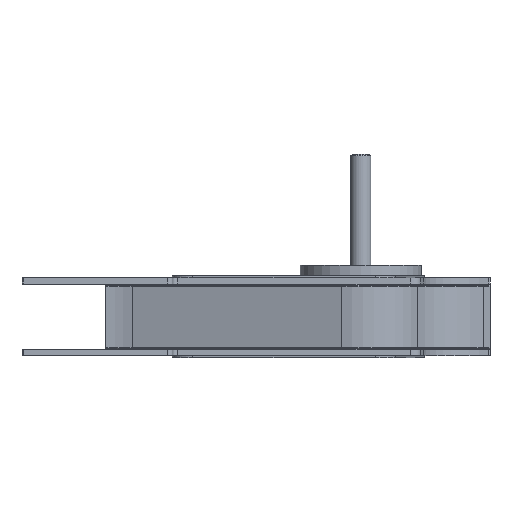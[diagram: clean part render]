
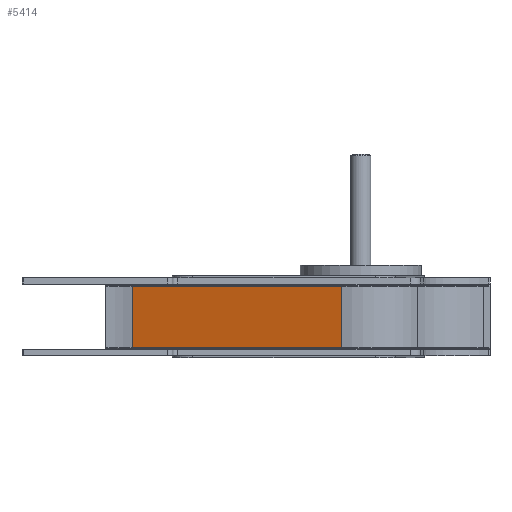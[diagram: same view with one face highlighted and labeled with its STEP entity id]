
A CAD part, front view. The second image highlights one B-rep face of the part: STEP entity #5414.
In plain terms, the highlighted planar face has unit normal (-0.291, -0.957, 0).
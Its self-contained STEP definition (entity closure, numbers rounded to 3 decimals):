
#1 = CARTESIAN_POINT ( 'NONE',  ( -146.644, -103.189, 30.293 ) ) ;
#1324 = DIRECTION ( 'NONE',  ( -0.957, 0.291, 0. ) ) ;
#1430 = CARTESIAN_POINT ( 'NONE',  ( -146.644, -103.189, -30.293 ) ) ;
#1483 = DIRECTION ( 'NONE',  ( 0., 0., -1. ) ) ;
#1758 = CARTESIAN_POINT ( 'NONE',  ( -146.644, -103.189, 30.293 ) ) ;
#1898 = PLANE ( 'NONE',  #10991 ) ;
#2354 = ORIENTED_EDGE ( 'NONE', *, *, #9049, .T. ) ;
#2447 = DIRECTION ( 'NONE',  ( -0.957, 0.291, 0. ) ) ;
#2572 = VERTEX_POINT ( 'NONE', #6202 ) ;
#2800 = VECTOR ( 'NONE', #1324, 1000. ) ;
#3042 = EDGE_CURVE ( 'NONE', #10491, #2572, #16060, .T. ) ;
#3230 = EDGE_CURVE ( 'NONE', #13742, #10491, #16883, .T. ) ;
#4186 = CARTESIAN_POINT ( 'NONE',  ( -353.933, -40.08, 30.293 ) ) ;
#5414 = ADVANCED_FACE ( 'NONE', ( #13714 ), #1898, .F. ) ;
#5835 = ORIENTED_EDGE ( 'NONE', *, *, #8268, .T. ) ;
#6202 = CARTESIAN_POINT ( 'NONE',  ( -353.933, -40.08, -30.293 ) ) ;
#6382 = CARTESIAN_POINT ( 'NONE',  ( -353.933, -40.08, 30.293 ) ) ;
#7291 = DIRECTION ( 'NONE',  ( -0.957, 0.291, 0. ) ) ;
#8268 = EDGE_CURVE ( 'NONE', #13742, #13550, #12908, .T. ) ;
#8521 = CARTESIAN_POINT ( 'NONE',  ( -146.644, -103.189, 30.293 ) ) ;
#9049 = EDGE_CURVE ( 'NONE', #13550, #2572, #15347, .T. ) ;
#9518 = ORIENTED_EDGE ( 'NONE', *, *, #3042, .F. ) ;
#10491 = VERTEX_POINT ( 'NONE', #1430 ) ;
#10991 = AXIS2_PLACEMENT_3D ( 'NONE', #8521, #11260, #7291 ) ;
#11118 = VECTOR ( 'NONE', #11933, 1000. ) ;
#11243 = EDGE_LOOP ( 'NONE', ( #12411, #5835, #2354, #9518 ) ) ;
#11260 = DIRECTION ( 'NONE',  ( 0.291, 0.957, 0. ) ) ;
#11844 = CARTESIAN_POINT ( 'NONE',  ( -146.644, -103.189, 30.293 ) ) ;
#11933 = DIRECTION ( 'NONE',  ( 0., 0., -1. ) ) ;
#12411 = ORIENTED_EDGE ( 'NONE', *, *, #3230, .F. ) ;
#12908 = LINE ( 'NONE', #1, #2800 ) ;
#13128 = CARTESIAN_POINT ( 'NONE',  ( -146.644, -103.189, -30.293 ) ) ;
#13550 = VERTEX_POINT ( 'NONE', #6382 ) ;
#13714 = FACE_OUTER_BOUND ( 'NONE', #11243, .T. ) ;
#13742 = VERTEX_POINT ( 'NONE', #11844 ) ;
#14517 = VECTOR ( 'NONE', #1483, 1000. ) ;
#15216 = VECTOR ( 'NONE', #2447, 1000. ) ;
#15347 = LINE ( 'NONE', #4186, #14517 ) ;
#16060 = LINE ( 'NONE', #13128, #15216 ) ;
#16883 = LINE ( 'NONE', #1758, #11118 ) ;
